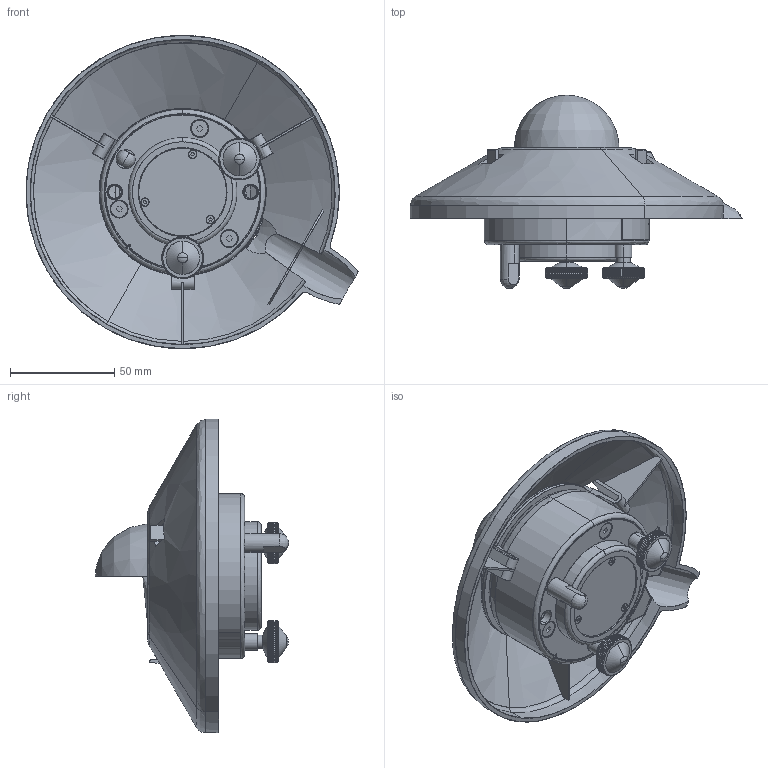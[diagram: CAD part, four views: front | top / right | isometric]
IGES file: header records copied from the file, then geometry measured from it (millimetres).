
Start section: SolidWorks IGES file using analytic representation for surfaces
Global section: file name: C:\Temp\SMP 12.IGS; native system: SolidWorks 2021; preprocessor: SolidWorks 2021; author: nieuwveen; date: 220201.090409; units: millimetre
Bounding box: 158.94 x 92.5 x 150 mm (x, y, z)
Surface area: 125616.8 mm2 (no closed solid volume)
Topology: 0 solids, 0 shells, 1485 faces, 18726 edges, 18683 vertices
Faces by surface type: revolution 817, bspline 668
